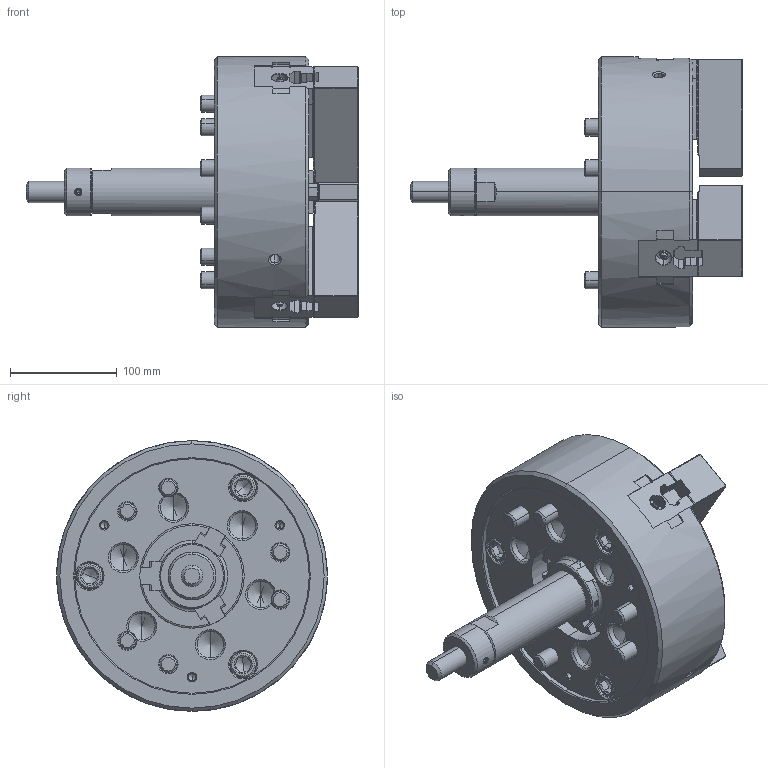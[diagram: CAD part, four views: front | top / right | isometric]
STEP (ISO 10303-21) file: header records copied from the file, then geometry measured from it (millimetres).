
FILE_DESCRIPTION (( 'STEP AP214' ), '1' );
FILE_NAME ('DT1_N-10_OUTSIDE_VIEW_HCL.STEP', '2026-03-16T00:23:14', ( '' ), ( '' ), 'SwSTEP 2.0', 'SolidWorks 2022', '' );
FILE_SCHEMA (( 'AUTOMOTIVE_DESIGN' ));
Length unit declared in the file: millimetre
Products named in the file (11): DT1_N-10_SOFTJAW^DT1_N-10; DT1_N-10_M16x85^DT1_N-10; DT1_N-10_COVER^DT1_N-10; DT1_N-10_DN^DT1_N-10; DT1_N-10_OUTSIDE_VIEW_HCL; DT1_N-10_M12x35^DT1_N-10; DT1_N-10_M5x12^DT1_N-10; DT1_N-10_TNUT^DT1_N-10; DT1_N-10_DRAWSCREW^DT1_N-10; Copy of 61P310584^DT1_N-10; DT1_N-10_BASE^DT1_N-10
Assembly tree (26 placements, depth 2):
  DT1_N-10_OUTSIDE_VIEW_HCL
    DT1_N-10_SOFTJAW^DT1_N-10  x3
    DT1_N-10_TNUT^DT1_N-10  x3
    DT1_N-10_COVER^DT1_N-10
    DT1_N-10_DRAWSCREW^DT1_N-10
    Copy of 61P310584^DT1_N-10
    DT1_N-10_DN^DT1_N-10
    DT1_N-10_BASE^DT1_N-10
    DT1_N-10_M5x12^DT1_N-10  x3
    DT1_N-10_M12x35^DT1_N-10  x6
    DT1_N-10_M16x85^DT1_N-10  x6
Bounding box: 311.5 x 254 x 254 mm (x, y, z)
Volume: 4751573.7 mm3; surface area: 511216.3 mm2
Topology: 26 solids, 26 shells, 4122 faces, 11615 edges, 7586 vertices
Faces by surface type: plane 2914, cylinder 613, cone 420, bspline 111, torus 58, sphere 6
Entity records: 104127 total; most frequent: CARTESIAN_POINT 28703, ORIENTED_EDGE 16854, DIRECTION 13757, EDGE_CURVE 8427, LINE 6219, VECTOR 6219, VERTEX_POINT 5530, AXIS2_PLACEMENT_3D 3769
